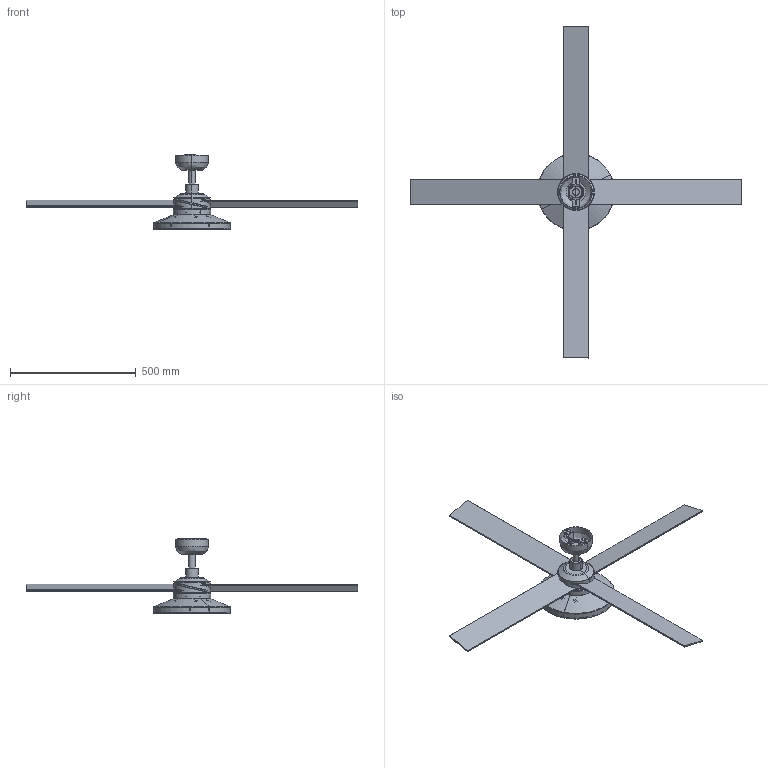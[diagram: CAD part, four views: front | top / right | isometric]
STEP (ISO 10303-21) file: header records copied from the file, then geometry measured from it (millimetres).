
FILE_DESCRIPTION(/* description */ (''),/* implementation_level */ '2;1');
FILE_NAME(/* name */ 'tak 4p 3d',/* time_stamp */ '2026-06-25T09:24:07+02:00',/* author */ (''),/* organization */ (''),/* preprocessor_version */ 'ST-DEVELOPER v19.2',/* originating_system */ 'Rhino 8.30',/* authorisation */ '');
FILE_SCHEMA (('CONFIG_CONTROL_DESIGN'));
Length unit declared in the file: millimetre
Products named in the file (1): Document
Bounding box: 1320 x 1320 x 296.86 mm (x, y, z)
Volume: 212145.6 mm3; surface area: 1251695.8 mm2
Topology: 2 solids, 723 shells, 775 faces, 4110 edges, 4061 vertices
Faces by surface type: plane 421, cylinder 286, bspline 68
Entity records: 56903 total; most frequent: CARTESIAN_POINT 24753, ORIENTED_EDGE 4260, EDGE_CURVE 4110, VERTEX_POINT 4060, DIRECTION 2849, B_SPLINE_CURVE_WITH_KNOTS 2839, AXIS2_PLACEMENT_3D 1778, TRIMMED_CURVE 1067
